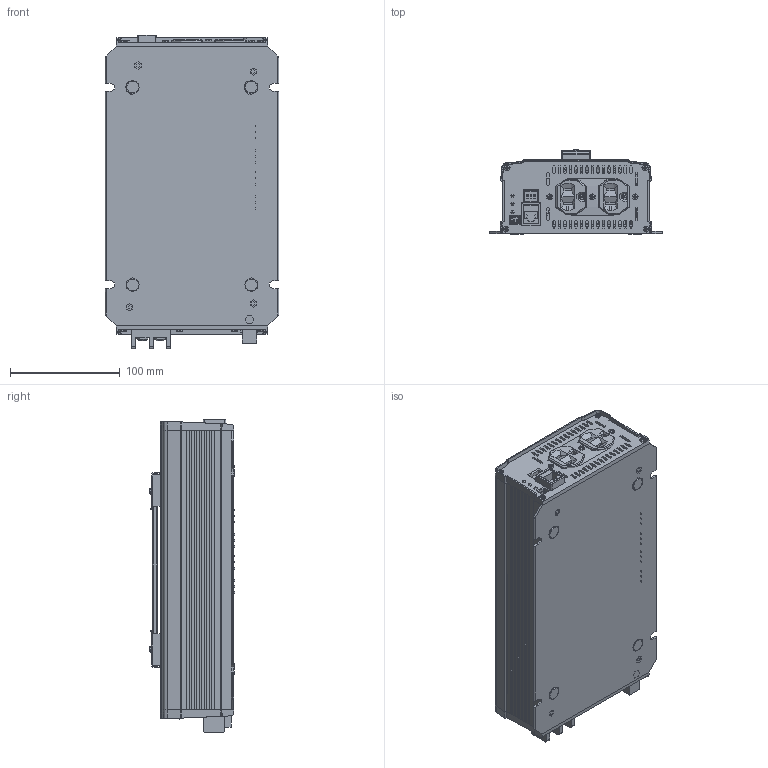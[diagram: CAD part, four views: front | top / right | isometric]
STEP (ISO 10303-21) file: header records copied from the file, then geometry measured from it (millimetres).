
FILE_DESCRIPTION(('Creo Elements/Direct Modeling STEP Export'),'2;1');
FILE_NAME('NTS-750US.stp','2021-04-16T19:21:13',(''),(''),'PTC Creo Elements/Direct Modeling STEP processor for AP214 (Solid Model)','PTC Creo Elements/Direct Modeling 19.0A 04-Oct-2014 (C) Parametric Technology GmbH','');
FILE_SCHEMA(('AUTOMOTIVE_DESIGN { 1 0 10303 214 1 1 1 1 }'));
Length unit declared in the file: millimetre
Products named in the file (170): 上盖; 下盖; M3-6.5L; M3-6.5L.1; M3-6.5L.1.1; M3-6.5L.1.1.1; 77; CASE; 1XX3NTS-750-I-20201103.prt; 1XX3NTS-750-I; E09-008-12243.PRT; E09-008_008A.PRT; E09-008-27547.ASM; E09C.PRT; E09-001C.PRT; E09A.PRT; E09-011.PRT.10; E06-008B.PRT; E09-002C-12095.PRT; 1.PRT; E09-002C-27468.ASM; E09-003.PRT; E-07-A2_1.ASM; E-07-A2.美规带耳朵; NTS-750面板; 19-30286-1312__w__.1.1.1.1; 19-30286-1312__w__.1.1.1; 19-30286-1312__w__.1; 19-30286-1312__w__.1.1; 19-30286-1312__w__.1.1.2; 19-30286-1312__w__.1.1.2.1; 19-30286-1312__w__.1.1.2.1.1; 装配2; 19-30281-0250__w__.2.1; 19-30281-0250__w__.2.1.1; 装配2.1; 19-30281-0250__w__.2.1.1.1; 装配2.1.1; 螺丝; C.2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
Assembly tree (176 placements, depth 8):
  NTS-750
    1XX3NTS-750US-O-0412
    固纬把手
      174
      guwei1
      guwei1.1
    装配1
      1GG
        1GG4CU-SZ031.1
        1GG1HS-SZ135
        1GG4CU-SZ032.1
        1GG4CU-SZ032
        1GG4CU-SZ031
        1GG1HS-SZ133
          DDD.1
          DDD
          SZ133
      1HH2
        1HH2NTS-750
        1HH2-FR4
        1HH2283A
        1HH176x25.6x0.3
      MOS1
        p3
        温度开关
        TO220-1.2.2.2.1.1.1.1
        TO220-1.2.2.2.1.1.1
        TO220-1.2.2.2.1.1
        TO220-1.2.2.2.1
        TO220-1.2.2.2
        TO220-1.2.2
      MOS
        TO247.1.1
        TO247
        MS1
        MS1.1
        TO247.1
        TO247.1.1.1
        MS1.1.1.1
        MS1.1.1
        TO220-1.2.1.1
        TO220-1.2.1
        TO220-1.2.1.1.1
        TO220-1.2
      TF
      PAD
        FOOT_PAD_7_1.PRT.30
        FOOT_PAD_7_1.PRT.31
        FOOT_PAD_7_1.PRT
        FOOT_PAD_7_1.PRT.29
      PCB
        PCBB
        PCBC
        PCBA
      小卡装配OK
        DH2L-20
          2.1.1.1.1
          2.1.1.1
          2.1.1
          1.1.1.1.1
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Bounding box: 158 x 77.87 x 286.01 mm (x, y, z)
Topology: 134 solids, 137 shells, 5163 faces, 13383 edges, 8580 vertices
Faces by surface type: plane 3332, cylinder 1157, cone 313, bspline 186, torus 88, sphere 84, extrusion 3
Entity records: 198289 total; most frequent: CARTESIAN_POINT 53731, ORIENTED_EDGE 27722, DIRECTION 25355, EDGE_CURVE 13847, VECTOR 9221, LINE 9218, VERTEX_POINT 8874, AXIS2_PLACEMENT_3D 8067
